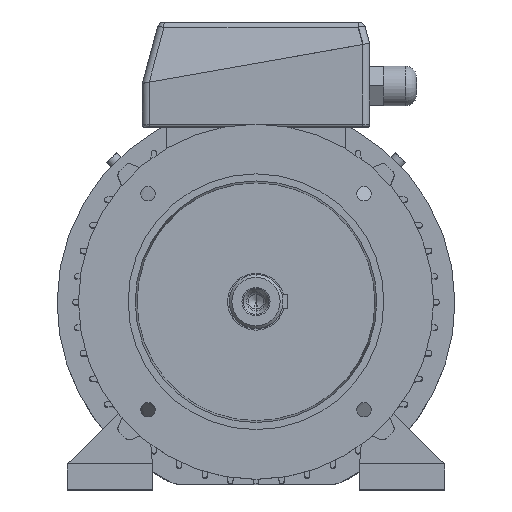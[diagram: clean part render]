
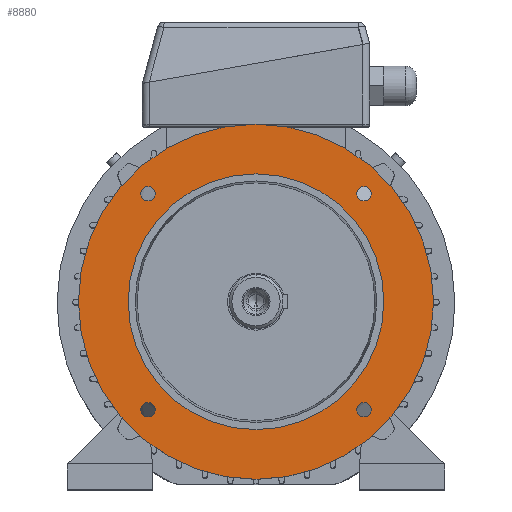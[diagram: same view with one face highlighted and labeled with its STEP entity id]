
A CAD part, top view. The second image highlights one B-rep face of the part: STEP entity #8880.
In plain terms, the highlighted planar face has unit normal (0, 0, 1).
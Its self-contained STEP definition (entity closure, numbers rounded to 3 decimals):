
#186 = EDGE_CURVE ( 'NONE', #1185, #16781, #10777, .T. ) ;
#208 = VERTEX_POINT ( 'NONE', #10789 ) ;
#300 = CIRCLE ( 'NONE', #301, 5.1 ) ;
#301 = AXIS2_PLACEMENT_3D ( 'NONE', #302, #303, #304 ) ;
#302 = CARTESIAN_POINT ( 'NONE',  ( -76.014, -76.014, 58. ) ) ;
#303 = DIRECTION ( 'NONE',  ( 0., 0., 1. ) ) ;
#304 = DIRECTION ( 'NONE',  ( 1., 0., 0. ) ) ;
#16762 = CARTESIAN_POINT ( 'NONE',  ( -81.114, -76.014, 58. ) ) ;
#16781 = VERTEX_POINT ( 'NONE', #2578 ) ;
#461 = EDGE_CURVE ( 'NONE', #1457, #208, #10910, .T. ) ;
#531 = CIRCLE ( 'NONE', #532, 5.1 ) ;
#532 = AXIS2_PLACEMENT_3D ( 'NONE', #533, #534, #535 ) ;
#533 = CARTESIAN_POINT ( 'NONE',  ( 76.014, 76.014, 58. ) ) ;
#534 = DIRECTION ( 'NONE',  ( 0., 0., 1. ) ) ;
#535 = DIRECTION ( 'NONE',  ( 1., 0., 0. ) ) ;
#1005 = CIRCLE ( 'NONE', #1006, 125. ) ;
#1006 = AXIS2_PLACEMENT_3D ( 'NONE', #1007, #1008, #1009 ) ;
#1007 = CARTESIAN_POINT ( 'NONE',  ( 0., 0., 58. ) ) ;
#1008 = DIRECTION ( 'NONE',  ( 0., 0., 1. ) ) ;
#1009 = DIRECTION ( 'NONE',  ( 1., 0., 0. ) ) ;
#1185 = VERTEX_POINT ( 'NONE', #11243 ) ;
#1239 = FACE_BOUND ( 'NONE', #8608, .T. ) ;
#1240 = FACE_BOUND ( 'NONE', #6564, .T. ) ;
#1241 = FACE_BOUND ( 'NONE', #9938, .T. ) ;
#1242 = FACE_OUTER_BOUND ( 'NONE', #9507, .T. ) ;
#1243 = FACE_BOUND ( 'NONE', #8163, .T. ) ;
#1248 = FACE_BOUND ( 'NONE', #6310, .T. ) ;
#1249 = PLANE ( 'NONE',  #1250 ) ;
#1250 = AXIS2_PLACEMENT_3D ( 'NONE', #1251, #1252, #1253 ) ;
#1251 = CARTESIAN_POINT ( 'NONE',  ( 0., 125., 58. ) ) ;
#1252 = DIRECTION ( 'NONE',  ( 0., 0., -1. ) ) ;
#1253 = DIRECTION ( 'NONE',  ( -1., 0., 0. ) ) ;
#1255 = CARTESIAN_POINT ( 'NONE',  ( -70.914, 76.014, 58. ) ) ;
#1386 = CIRCLE ( 'NONE', #1387, 5.1 ) ;
#1387 = AXIS2_PLACEMENT_3D ( 'NONE', #1388, #1389, #1390 ) ;
#1388 = CARTESIAN_POINT ( 'NONE',  ( -76.014, 76.014, 58. ) ) ;
#1389 = DIRECTION ( 'NONE',  ( 0., 0., 1. ) ) ;
#1390 = DIRECTION ( 'NONE',  ( 1., 0., 0. ) ) ;
#1457 = VERTEX_POINT ( 'NONE', #11416 ) ;
#2247 = CIRCLE ( 'NONE', #2248, 90. ) ;
#2248 = AXIS2_PLACEMENT_3D ( 'NONE', #2249, #2250, #2251 ) ;
#2249 = CARTESIAN_POINT ( 'NONE',  ( 0., 0., 58. ) ) ;
#2250 = DIRECTION ( 'NONE',  ( 0., 0., 1. ) ) ;
#2251 = DIRECTION ( 'NONE',  ( 1., 0., 0. ) ) ;
#2578 = CARTESIAN_POINT ( 'NONE',  ( 81.114, -76.014, 58. ) ) ;
#2718 = VERTEX_POINT ( 'NONE', #12081 ) ;
#2970 = VERTEX_POINT ( 'NONE', #12209 ) ;
#3221 = EDGE_CURVE ( 'NONE', #2970, #2718, #12353, .T. ) ;
#3857 = VERTEX_POINT ( 'NONE', #12694 ) ;
#4482 = ORIENTED_EDGE ( 'NONE', *, *, #9159, .F. ) ;
#5002 = ORIENTED_EDGE ( 'NONE', *, *, #186, .F. ) ;
#5142 = EDGE_CURVE ( 'NONE', #8900, #3857, #15694, .T. ) ;
#5167 = VERTEX_POINT ( 'NONE', #15720 ) ;
#5419 = EDGE_CURVE ( 'NONE', #6405, #5167, #15827, .T. ) ;
#5559 = ORIENTED_EDGE ( 'NONE', *, *, #5142, .F. ) ;
#5579 = EDGE_CURVE ( 'NONE', #16781, #1185, #16312, .T. ) ;
#5983 = ORIENTED_EDGE ( 'NONE', *, *, #5579, .F. ) ;
#6286 = CARTESIAN_POINT ( 'NONE',  ( 125., 0., 58. ) ) ;
#6310 = EDGE_LOOP ( 'NONE', ( #5559, #4482 ) ) ;
#6405 = VERTEX_POINT ( 'NONE', #16762 ) ;
#6431 = CIRCLE ( 'NONE', #6432, 125. ) ;
#6432 = AXIS2_PLACEMENT_3D ( 'NONE', #6433, #6434, #6435 ) ;
#6433 = CARTESIAN_POINT ( 'NONE',  ( 0., 0., 58. ) ) ;
#6434 = DIRECTION ( 'NONE',  ( 0., 0., 1. ) ) ;
#6435 = DIRECTION ( 'NONE',  ( 1., 0., 0. ) ) ;
#6564 = EDGE_LOOP ( 'NONE', ( #5983, #5002 ) ) ;
#6585 = ORIENTED_EDGE ( 'NONE', *, *, #5419, .F. ) ;
#6830 = ORIENTED_EDGE ( 'NONE', *, *, #461, .F. ) ;
#6894 = CARTESIAN_POINT ( 'NONE',  ( -125., 0., 58. ) ) ;
#7168 = EDGE_CURVE ( 'NONE', #5167, #6405, #300, .T. ) ;
#7418 = EDGE_CURVE ( 'NONE', #208, #1457, #531, .T. ) ;
#7587 = ORIENTED_EDGE ( 'NONE', *, *, #7168, .F. ) ;
#7841 = ORIENTED_EDGE ( 'NONE', *, *, #7418, .F. ) ;
#8163 = EDGE_LOOP ( 'NONE', ( #7587, #6585 ) ) ;
#8442 = EDGE_CURVE ( 'NONE', #12585, #11361, #1005, .T. ) ;
#8608 = EDGE_LOOP ( 'NONE', ( #7841, #6830 ) ) ;
#8856 = ORIENTED_EDGE ( 'NONE', *, *, #8442, .T. ) ;
#8880 = ADVANCED_FACE ( 'NONE', ( #1239, #1240, #1241, #1242, #1243, #1248 ), #1249, .F. ) ;
#8900 = VERTEX_POINT ( 'NONE', #1255 ) ;
#9159 = EDGE_CURVE ( 'NONE', #3857, #8900, #1386, .T. ) ;
#9363 = ORIENTED_EDGE ( 'NONE', *, *, #11606, .T. ) ;
#9507 = EDGE_LOOP ( 'NONE', ( #9363, #8856 ) ) ;
#9581 = EDGE_CURVE ( 'NONE', #2718, #2970, #2247, .T. ) ;
#9670 = ORIENTED_EDGE ( 'NONE', *, *, #9581, .F. ) ;
#9814 = ORIENTED_EDGE ( 'NONE', *, *, #3221, .F. ) ;
#9938 = EDGE_LOOP ( 'NONE', ( #9814, #9670 ) ) ;
#10777 = CIRCLE ( 'NONE', #10778, 5.1 ) ;
#10778 = AXIS2_PLACEMENT_3D ( 'NONE', #10779, #10780, #10786 ) ;
#10779 = CARTESIAN_POINT ( 'NONE',  ( 76.014, -76.014, 58. ) ) ;
#10780 = DIRECTION ( 'NONE',  ( 0., 0., 1. ) ) ;
#10786 = DIRECTION ( 'NONE',  ( 1., 0., 0. ) ) ;
#10789 = CARTESIAN_POINT ( 'NONE',  ( 81.114, 76.014, 58. ) ) ;
#10910 = CIRCLE ( 'NONE', #10911, 5.1 ) ;
#10911 = AXIS2_PLACEMENT_3D ( 'NONE', #10912, #10913, #10914 ) ;
#10912 = CARTESIAN_POINT ( 'NONE',  ( 76.014, 76.014, 58. ) ) ;
#10913 = DIRECTION ( 'NONE',  ( 0., 0., 1. ) ) ;
#10914 = DIRECTION ( 'NONE',  ( 1., 0., 0. ) ) ;
#11243 = CARTESIAN_POINT ( 'NONE',  ( 70.914, -76.014, 58. ) ) ;
#11361 = VERTEX_POINT ( 'NONE', #6286 ) ;
#11416 = CARTESIAN_POINT ( 'NONE',  ( 70.914, 76.014, 58. ) ) ;
#11606 = EDGE_CURVE ( 'NONE', #11361, #12585, #6431, .T. ) ;
#12081 = CARTESIAN_POINT ( 'NONE',  ( -90., 0., 58. ) ) ;
#12209 = CARTESIAN_POINT ( 'NONE',  ( 90., 0., 58. ) ) ;
#12353 = CIRCLE ( 'NONE', #12354, 90. ) ;
#12354 = AXIS2_PLACEMENT_3D ( 'NONE', #12355, #12356, #12357 ) ;
#12355 = CARTESIAN_POINT ( 'NONE',  ( 0., 0., 58. ) ) ;
#12356 = DIRECTION ( 'NONE',  ( 0., 0., 1. ) ) ;
#12357 = DIRECTION ( 'NONE',  ( 1., 0., 0. ) ) ;
#12585 = VERTEX_POINT ( 'NONE', #6894 ) ;
#12694 = CARTESIAN_POINT ( 'NONE',  ( -81.114, 76.014, 58. ) ) ;
#15694 = CIRCLE ( 'NONE', #15695, 5.1 ) ;
#15695 = AXIS2_PLACEMENT_3D ( 'NONE', #15696, #15697, #15698 ) ;
#15696 = CARTESIAN_POINT ( 'NONE',  ( -76.014, 76.014, 58. ) ) ;
#15697 = DIRECTION ( 'NONE',  ( 0., 0., 1. ) ) ;
#15698 = DIRECTION ( 'NONE',  ( 1., 0., 0. ) ) ;
#15720 = CARTESIAN_POINT ( 'NONE',  ( -70.914, -76.014, 58. ) ) ;
#15827 = CIRCLE ( 'NONE', #15828, 5.1 ) ;
#15828 = AXIS2_PLACEMENT_3D ( 'NONE', #15829, #15830, #15831 ) ;
#15829 = CARTESIAN_POINT ( 'NONE',  ( -76.014, -76.014, 58. ) ) ;
#15830 = DIRECTION ( 'NONE',  ( 0., 0., 1. ) ) ;
#15831 = DIRECTION ( 'NONE',  ( 1., 0., 0. ) ) ;
#16312 = CIRCLE ( 'NONE', #16313, 5.1 ) ;
#16313 = AXIS2_PLACEMENT_3D ( 'NONE', #16327, #16328, #16329 ) ;
#16327 = CARTESIAN_POINT ( 'NONE',  ( 76.014, -76.014, 58. ) ) ;
#16328 = DIRECTION ( 'NONE',  ( 0., 0., 1. ) ) ;
#16329 = DIRECTION ( 'NONE',  ( 1., 0., 0. ) ) ;
